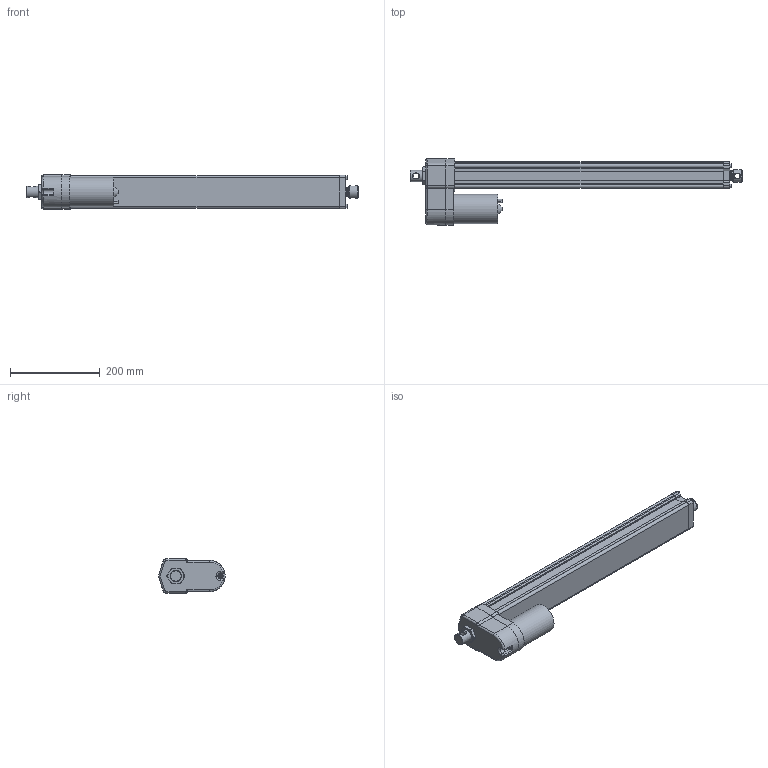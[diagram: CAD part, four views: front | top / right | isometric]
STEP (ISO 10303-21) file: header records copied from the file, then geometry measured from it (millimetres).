
FILE_DESCRIPTION( ( 'STEP AP203' ), '1' );
FILE_NAME( 'p:/temp/worker_446/temp/exporttempdir_6588_590_rE1tW/format_0/DA12-05A65M50M0N-AMM.stp', '2020-04-12T13:19:29', ( 'License CC BY-ND 4.0' ), ( 'CADENAS' ), ' ', 'PARTsolutions', ' ' );
FILE_SCHEMA( ( 'CONFIG_CONTROL_DESIGN' ) );
Length unit declared in the file: millimetre
Products named in the file (8): DA12-05A65M50M0N-AMM; _ELECTRAK-LA14-DA12-05A65MM0N-50M-EU-REAR; _Electrak-10-EU-RA-D602700; _D602768eu; _ELECTRAK-LA14-DA12--MOTOR; _DA12-05A65M50M0NAMMtube; _ELECTRAK-LA14-DA12--50-PLATE; _ELECTRAK-LA14-DA12--5005A65MNM-ROD
Assembly tree (7 placements, depth 2):
  DA12-05A65M50M0N-AMM
    _ELECTRAK-LA14-DA12-05A65MM0N-50M-EU-REAR
    _Electrak-10-EU-RA-D602700
    _D602768eu
    _ELECTRAK-LA14-DA12--MOTOR
    _DA12-05A65M50M0NAMMtube
    _ELECTRAK-LA14-DA12--50-PLATE
    _ELECTRAK-LA14-DA12--5005A65MNM-ROD
Bounding box: 741.05 x 148 x 76.2 mm (x, y, z)
Volume: 2014300.1 mm3; surface area: 570898.6 mm2
Topology: 7 solids, 8 shells, 378 faces, 942 edges, 610 vertices
Faces by surface type: plane 183, cylinder 131, cone 46, torus 14, bspline 4
Full cylindrical faces by diameter (mm): 4 x2, 4.126 x1, 4.8 x6, 5 x5, 5.6 x4, 7.878 x4, 9.398 x1, 12.2 x2, 16 x1, 21.8 x1, 25.2 x1, 25.4 x1, 26.24 x1, 28.5 x1, 28.6 x2, 47.625 x1, 65.3 x1
Entity records: 11834 total; most frequent: CARTESIAN_POINT 2729, DIRECTION 1869, ORIENTED_EDGE 1744, EDGE_CURVE 872, AXIS2_PLACEMENT_3D 702, VERTEX_POINT 602, EDGE_LOOP 485, LINE 465
